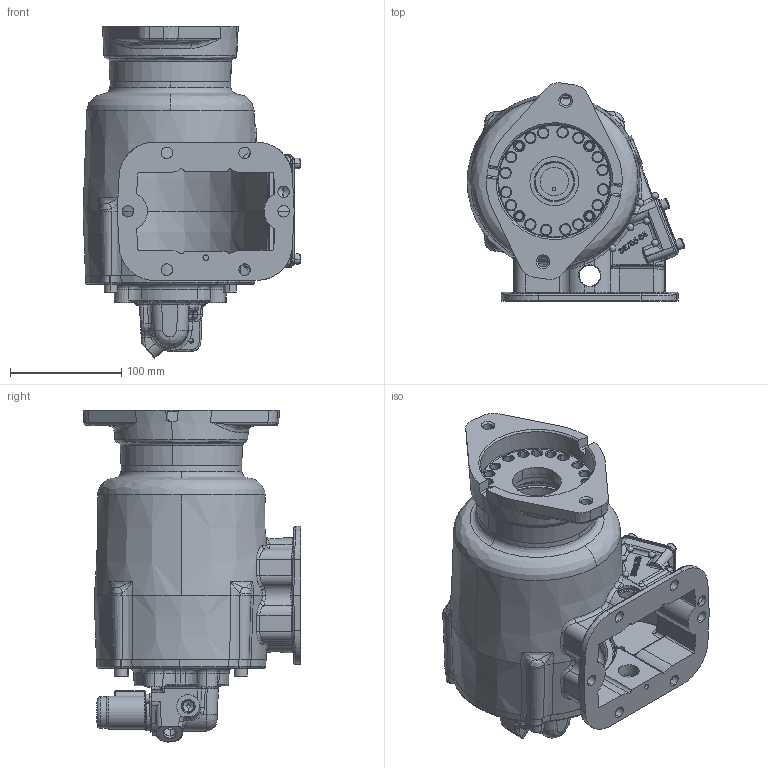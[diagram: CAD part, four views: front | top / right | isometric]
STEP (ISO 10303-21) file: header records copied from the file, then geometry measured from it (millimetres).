
FILE_DESCRIPTION (( 'STEP AP203' ), '1' );
FILE_NAME ('CS6S-XXXXX-S36X.STEP', '2023-05-30T19:57:21', ( '' ), ( '' ), 'SwSTEP 2.0', 'SolidWorks 2021', '' );
FILE_SCHEMA (( 'CONFIG_CONTROL_DESIGN' ));
Length unit declared in the file: inch
Products named in the file (9): 16T41119; CS6S-XXXXX-S36X; 01T37072; 35T40860-2; 14T38981; 19T40859; 19T41118; 15T41597; 19T35237
Assembly tree (15 placements, depth 2):
  CS6S-XXXXX-S36X
    01T37072
    16T41119
    19T35237  x4
    19T41118  x4
    15T41597
    35T40860-2
    19T40859  x2
    14T38981
Bounding box: 195.33 x 195.46 x 297.84 mm (x, y, z)
Volume: 1407394.5 mm3; surface area: 408669.9 mm2
Topology: 16 solids, 16 shells, 2382 faces, 6123 edges, 3783 vertices
Faces by surface type: bspline 892, cylinder 553, plane 528, cone 313, torus 92, sphere 4
Entity records: 152653 total; most frequent: CARTESIAN_POINT 104275, ORIENTED_EDGE 11320, DIRECTION 7294, EDGE_CURVE 5660, VERTEX_POINT 3568, AXIS2_PLACEMENT_3D 2632, EDGE_LOOP 2470, B_SPLINE_CURVE_WITH_KNOTS 2250
